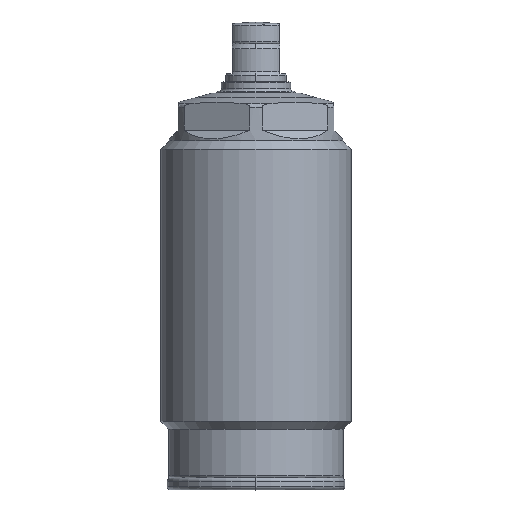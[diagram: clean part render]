
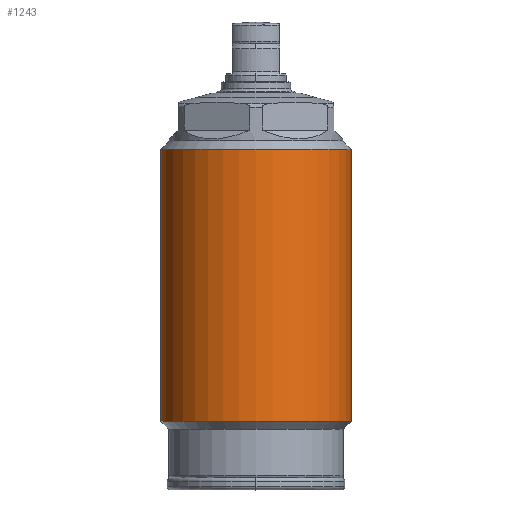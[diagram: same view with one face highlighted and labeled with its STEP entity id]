
A CAD part, top view. The second image highlights one B-rep face of the part: STEP entity #1243.
In plain terms, the highlighted cylindrical face has radius 11 mm (diameter 22 mm), a partial arc.
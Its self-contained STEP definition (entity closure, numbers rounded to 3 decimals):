
#952=CYLINDRICAL_SURFACE('',#3332,11.);
#1034=LINE('',#4958,#1125);
#1035=LINE('',#4962,#1126);
#1125=VECTOR('',#4021,1.);
#1126=VECTOR('',#4024,1.);
#1243=ADVANCED_FACE('',(#1438),#952,.T.);
#1438=FACE_OUTER_BOUND('',#1592,.T.);
#1592=EDGE_LOOP('',(#2084,#2085,#2086,#2087));
#2084=ORIENTED_EDGE('',*,*,#2782,.T.);
#2085=ORIENTED_EDGE('',*,*,#2784,.T.);
#2086=ORIENTED_EDGE('',*,*,#2785,.F.);
#2087=ORIENTED_EDGE('',*,*,#2786,.F.);
#2501=VERTEX_POINT('',#4953);
#2502=VERTEX_POINT('',#4955);
#2503=VERTEX_POINT('',#4959);
#2504=VERTEX_POINT('',#4961);
#2782=EDGE_CURVE('',#2502,#2501,#3029,.T.);
#2784=EDGE_CURVE('',#2501,#2503,#1034,.T.);
#2785=EDGE_CURVE('',#2504,#2503,#3030,.T.);
#2786=EDGE_CURVE('',#2502,#2504,#1035,.T.);
#3029=CIRCLE('',#3329,11.);
#3030=CIRCLE('',#3331,11.);
#3329=AXIS2_PLACEMENT_3D('',#4954,#4016,#4017);
#3331=AXIS2_PLACEMENT_3D('',#4960,#4022,#4023);
#3332=AXIS2_PLACEMENT_3D('',#4963,#4025,#4026);
#4016=DIRECTION('',(0.,-1.,0.));
#4017=DIRECTION('',(1.,0.,0.));
#4021=DIRECTION('',(0.,-1.,0.));
#4022=DIRECTION('',(0.,-1.,0.));
#4023=DIRECTION('',(1.,0.,0.));
#4024=DIRECTION('',(0.,-1.,0.));
#4025=DIRECTION('',(0.,-1.,0.));
#4026=DIRECTION('',(-1.,0.,0.));
#4953=CARTESIAN_POINT('',(-11.,38.,0.));
#4954=CARTESIAN_POINT('',(0.,38.,0.));
#4955=CARTESIAN_POINT('',(11.,38.,0.));
#4958=CARTESIAN_POINT('',(-11.,0.,0.));
#4959=CARTESIAN_POINT('',(-11.,6.6,0.));
#4960=CARTESIAN_POINT('',(0.,6.6,0.));
#4961=CARTESIAN_POINT('',(11.,6.6,0.));
#4962=CARTESIAN_POINT('',(11.,0.,0.));
#4963=CARTESIAN_POINT('',(0.,0.,0.));
